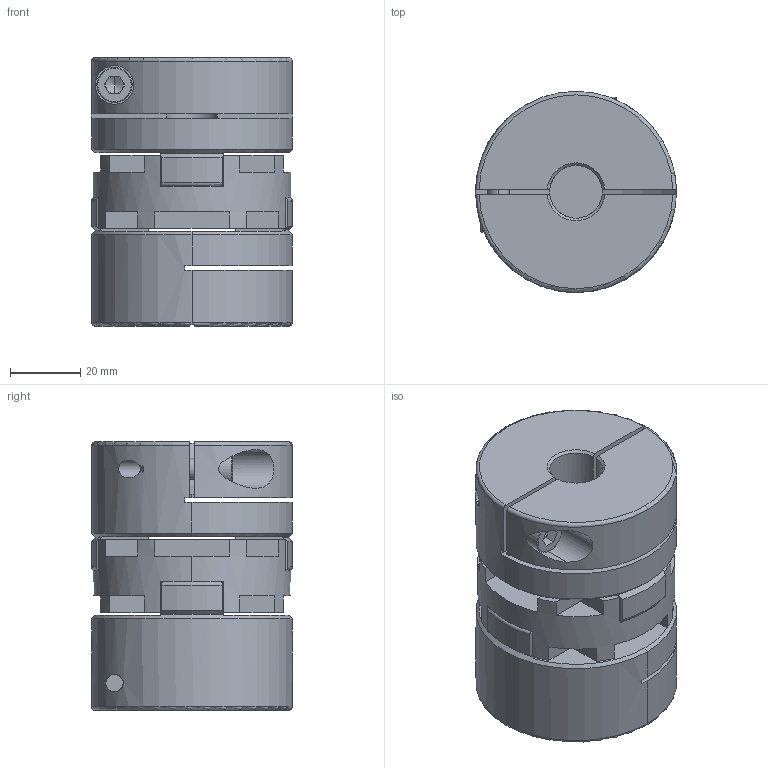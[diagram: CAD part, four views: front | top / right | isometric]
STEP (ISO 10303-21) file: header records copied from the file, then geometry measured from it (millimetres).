
FILE_DESCRIPTION (( 'STEP AP203' ), '1' );
FILE_NAME ('SOH-57C-15X28_203.STEP', '2013-01-29T05:23:30', ( '' ), ( '' ), 'SwSTEP 2.0', 'SolidWorks 2012', '' );
FILE_SCHEMA (( 'CONFIG_CONTROL_DESIGN' ));
Length unit declared in the file: millimetre
Products named in the file (1): SOH-57C-15X28_203
Bounding box: 57 x 57 x 76.2 mm (x, y, z)
Volume: 143044.7 mm3; surface area: 39153 mm2
Topology: 1 solids, 1 shells, 258 faces, 736 edges, 468 vertices
Faces by surface type: plane 156, cylinder 54, cone 26, torus 22
Entity records: 8951 total; most frequent: CARTESIAN_POINT 2137, ORIENTED_EDGE 1464, DIRECTION 1372, EDGE_CURVE 732, AXIS2_PLACEMENT_3D 479, VERTEX_POINT 468, LINE 414, VECTOR 414
